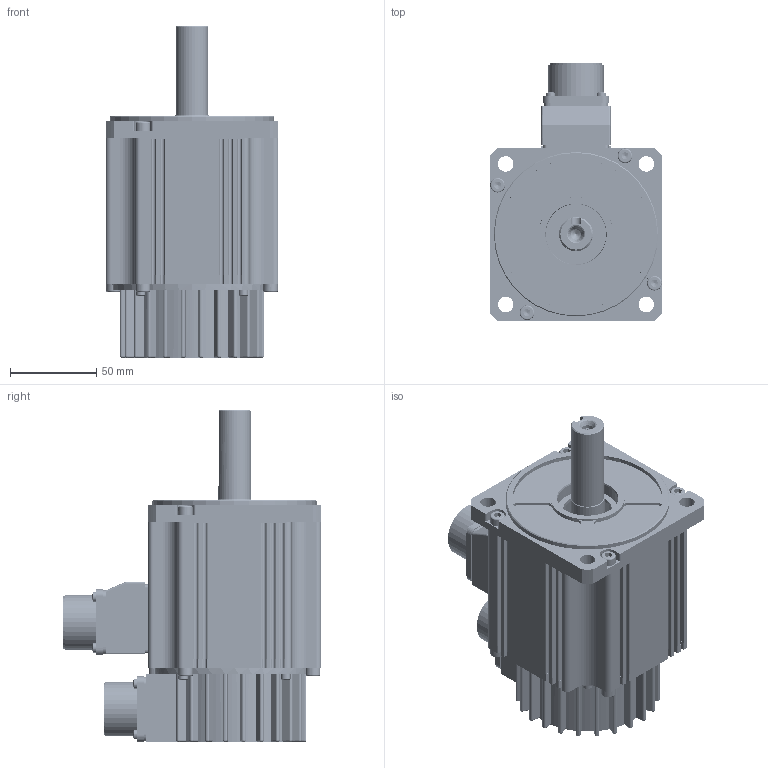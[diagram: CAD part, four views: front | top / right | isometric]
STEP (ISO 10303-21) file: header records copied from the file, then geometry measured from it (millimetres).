
FILE_DESCRIPTION((''),'2;1');
FILE_NAME('PH2-L10A23025XX0A_ASM','2018-11-27T',('JIANGFEI6'),(''),'CREO PARAMETRIC BY PTC INC, 2015480','CREO PARAMETRIC BY PTC INC, 2015480','');
FILE_SCHEMA(('CONFIG_CONTROL_DESIGN'));
Products named in the file (34): 80D20009011_AF0_1_1_2_3; HANGCHAMIFENGJIAODIAN_1_1_2_3; 80G3000501_1_1_2_3; MJ01-8041_1_1_2_3; 80T5004101_AF0_ASM_1_1_2_3_ASM; 80D2004601_AF0_1_1_2_1; 80D2004601_AF0_1_1_2_2; 80D2004601_AF0_1_1_2_ASM; MJ01-8033_AF0_1_1; MJ01-8033_AF1_1_1; MJ01-8033_AF2_1_1; MJ01-8033_AF3_1_1; ASM0001_AF0_ASM_1_1_ASM; 80D5004701_AF1_1_1; 80G60001011_1_1; HANGCHAMIFENGJIAODIAN_1; HANGCHA_1_1; MJ01-8042_AF2_1_1; MJ01-8042_AF3_1_1; MJ01-8042_AF4_1_1; MJ01-8042_AF5_1_1; DONGLIXIANCHAZUO_AF1_ASM_1_1_ASM; 80S6000401_1_1_2_3; ASM0002_AF1_ASM_1_1_ASM; 80Q0006401_AF1_1_1; 80D2004501_AF1_1_1_2_3; MJ01-8059_1_AF4_1_1; MJ01-8059_1_AF5_1_1; MJ01-8059_1_AF6_1_1; MJ01-8059_1_AF7_1_1; ASM0004_AF1_ASM_1_1_ASM; L-10E4K4A0_ASM_1_1_ASM; PRT0001; PH2-L10A23025XX0A_ASM
Assembly tree (39 placements, depth 6):
  PH2-L10A23025XX0A_ASM
    L-10E4K4A0_ASM_1_1_ASM
      ASM0004_AF1_ASM_1_1_ASM
        ASM0001_AF0_ASM_1_1_ASM
          80T5004101_AF0_ASM_1_1_2_3_ASM
            80D20009011_AF0_1_1_2_3
            HANGCHAMIFENGJIAODIAN_1_1_2_3
            80G3000501_1_1_2_3
            MJ01-8041_1_1_2_3  x4
          80D2004601_AF0_1_1_2_ASM
            80D2004601_AF0_1_1_2_1
            80D2004601_AF0_1_1_2_2
          MJ01-8033_AF0_1_1
          MJ01-8033_AF1_1_1
          MJ01-8033_AF2_1_1
          MJ01-8033_AF3_1_1
        80D5004701_AF1_1_1
        ASM0002_AF1_ASM_1_1_ASM
          DONGLIXIANCHAZUO_AF1_ASM_1_1_ASM
            80G60001011_1_1
            HANGCHAMIFENGJIAODIAN_1
            HANGCHA_1_1
            MJ01-8042_AF2_1_1
            MJ01-8042_AF3_1_1
            MJ01-8042_AF4_1_1
            MJ01-8042_AF5_1_1
          80S6000401_1_1_2_3
        80Q0006401_AF1_1_1
        80D2004501_AF1_1_1_2_3
        MJ01-8059_1_AF4_1_1
        MJ01-8059_1_AF5_1_1
        MJ01-8059_1_AF6_1_1
        MJ01-8059_1_AF7_1_1
    PRT0001  x4
Bounding box: 100 x 149.1 x 192.05 mm (x, y, z)
Volume: 334692.9 mm3; surface area: 211348.9 mm2
Topology: 32 solids, 63 shells, 4698 faces, 10749 edges, 6105 vertices
Faces by surface type: cone 1925, cylinder 1791, plane 828, sphere 108, torus 44, bspline 2
Entity records: 116608 total; most frequent: DIRECTION 22014, CARTESIAN_POINT 20914, ORIENTED_EDGE 18572, EDGE_CURVE 9355, AXIS2_PLACEMENT_3D 8692, VERTEX_POINT 5436, VECTOR 4630, LINE 4630
